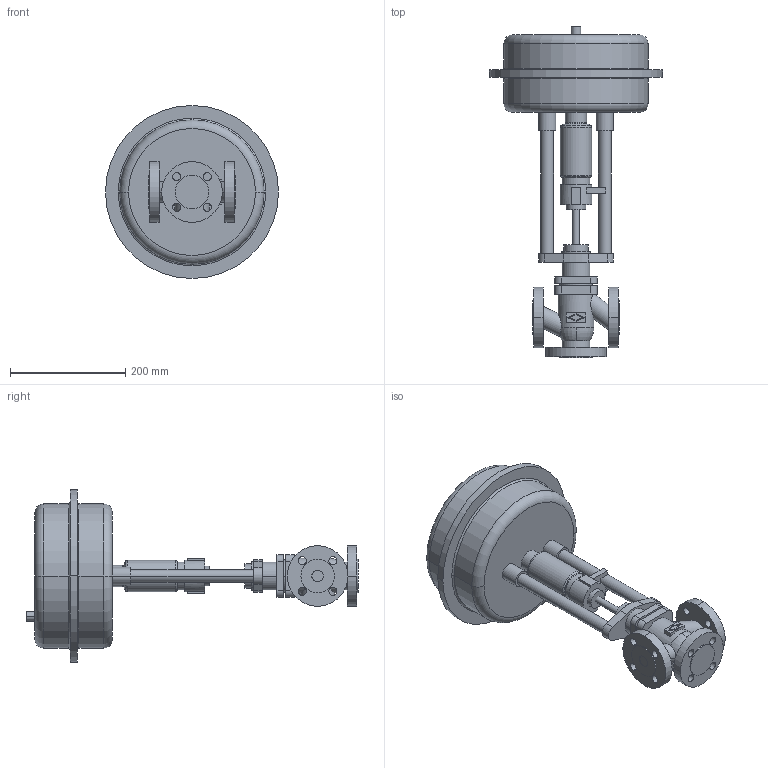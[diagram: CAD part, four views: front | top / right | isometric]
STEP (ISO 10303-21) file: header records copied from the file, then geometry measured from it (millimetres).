
FILE_DESCRIPTION(('OneSpaceDesigner STEP Export'),'2;1');
FILE_NAME('c000000681.stp','2006-09-19T10:12:00',(''),(''),'OneSpace Designer STEP processor for AP214 (Solid Model)','OneSpace Designer 13.20A 18-Aug-2005 (C) CoCreate Software GmbH','');
FILE_SCHEMA(('AUTOMOTIVE_DESIGN { 1 0 10303 214 1 1 1 1 }'));
Length unit declared in the file: millimetre
Products named in the file (2): 1; 2
Bounding box: 300 x 575.6 x 300 mm (x, y, z)
Volume: 8401207.4 mm3; surface area: 441176.6 mm2
Topology: 2 solids, 2 shells, 199 faces, 482 edges, 316 vertices
Faces by surface type: cylinder 100, plane 77, torus 18, cone 4
Entity records: 5576 total; most frequent: CARTESIAN_POINT 1263, ORIENTED_EDGE 964, DIRECTION 786, EDGE_CURVE 482, VERTEX_POINT 316, AXIS2_PLACEMENT_3D 286, EDGE_LOOP 252, VECTOR 214
